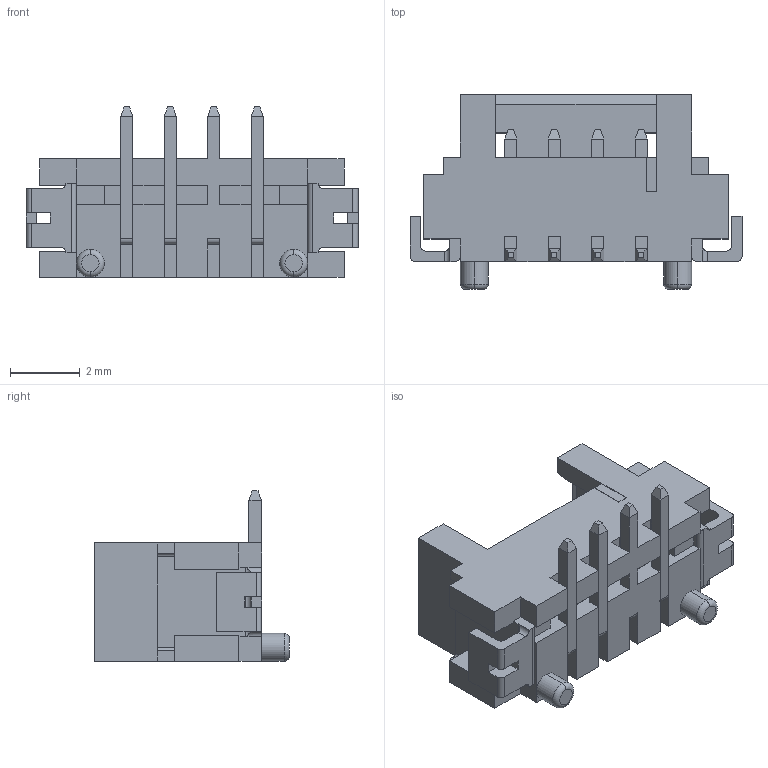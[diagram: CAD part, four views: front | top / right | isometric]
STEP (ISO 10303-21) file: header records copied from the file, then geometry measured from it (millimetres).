
FILE_DESCRIPTION (( 'STEP AP203' ), '1' );
FILE_NAME ('4574-1x04TD3T-P-1110919.STEP', '2022-09-19T09:32:26', ( '' ), ( '' ), 'SwSTEP 2.0', 'SolidWorks 2019', '' );
FILE_SCHEMA (( 'CONFIG_CONTROL_DESIGN' ));
Length unit declared in the file: millimetre
Products named in the file (2): 4574-1x04TD3T-P-1110919
Assembly tree (1 placements, depth 2):
  4574-1x04TD3T-P-1110919
    4574-1x04TD3T-P-1110919
Bounding box: 9.55 x 5.6 x 4.9 mm (x, y, z)
Volume: 72.6 mm3; surface area: 295.5 mm2
Topology: 7 solids, 7 shells, 260 faces, 720 edges, 462 vertices
Faces by surface type: plane 228, cylinder 28, torus 4
Entity records: 8328 total; most frequent: CARTESIAN_POINT 1458, ORIENTED_EDGE 1440, DIRECTION 1300, EDGE_CURVE 720, VECTOR 660, LINE 660, VERTEX_POINT 462, AXIS2_PLACEMENT_3D 320
